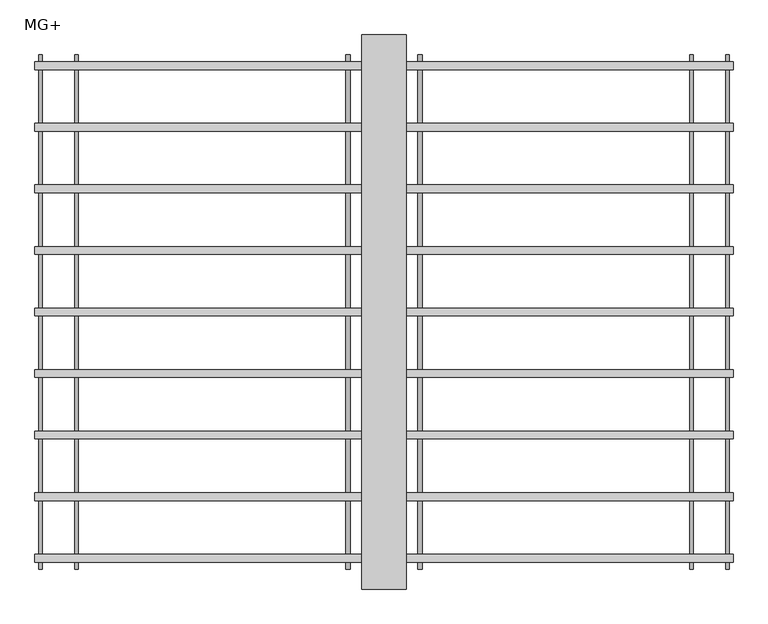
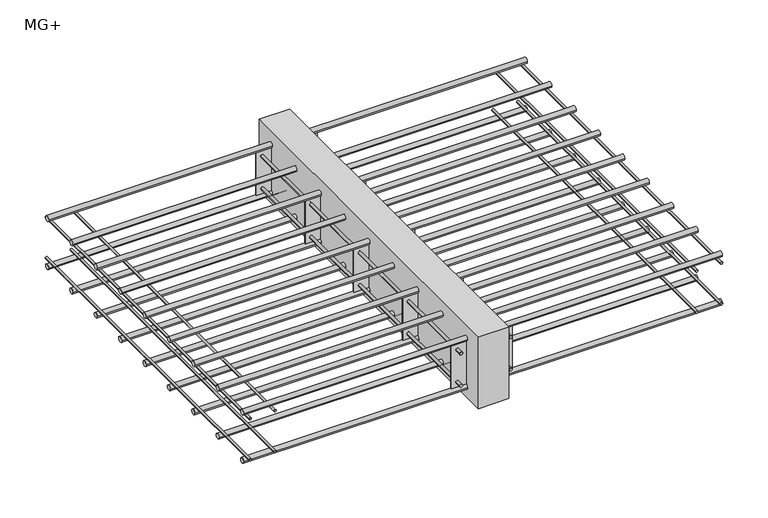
"""IFC4 building model written with IfcOpenShell, lengths in millimetres: fastener geometry, ACINOXplus_Typenreihe_M : MG+."""

from ifc_helpers import new_model, si_unit, point, frame, frame_2d, origin, place, context, project, spatial, polyline, circle_curve, trimmed, segment, composite_curve, outline, extrude, source, transform, mapped, element, save


def mg_54fea27c(model_context):
    return source(origin(), model_context, "Body", "SweptSolid", [
        extrude(outline(polyline([(40.0, 500.0), (40.0, -500.0), (-40.0, -500.0), (-40.0, 500.0), (40.0, 500.0)])), frame((0.0, 0.0, -200.0), z_axis=(0.0, 0.0, 1.0), x_axis=(1.0, 0.0, 0.0)), (0.0, 0.0, 1.0), 200.0),
        extrude(outline(polyline([(80.0, -220.7222222), (80.0, -223.7222222), (-80.0, -223.7222222), (-80.0, -220.7222222), (80.0, -220.7222222)])), frame((0.0, 0.0, -164.0), z_axis=(0.0, 0.0, 1.0), x_axis=(1.0, 0.0, 0.0)), (0.0, 0.0, 1.0), 120.0),
        extrude(outline(polyline([(80.0, 1.5), (80.0, -1.5), (-80.0, -1.5), (-80.0, 1.5), (80.0, 1.5)])), frame((0.0, 0.0, -164.0), z_axis=(0.0, 0.0, 1.0), x_axis=(1.0, 0.0, 0.0)), (0.0, 0.0, 1.0), 120.0),
        extrude(outline(polyline([(80.0, 223.7222222), (80.0, 220.7222222), (-80.0, 220.7222222), (-80.0, 223.7222222), (80.0, 223.7222222)])), frame((0.0, 0.0, -164.0), z_axis=(0.0, 0.0, 1.0), x_axis=(1.0, 0.0, 0.0)), (0.0, 0.0, 1.0), 120.0),
        extrude(outline(polyline([(80.0, -442.9444444), (80.0, -445.9444444), (-80.0, -445.9444444), (-80.0, -442.9444444), (80.0, -442.9444444)])), frame((0.0, 0.0, -164.0), z_axis=(0.0, 0.0, 1.0), x_axis=(1.0, 0.0, 0.0)), (0.0, 0.0, 1.0), 120.0),
        extrude(outline(polyline([(80.0, 445.9444444), (80.0, 442.9444444), (-80.0, 442.9444444), (-80.0, 445.9444444), (80.0, 445.9444444)])), frame((0.0, 0.0, -164.0), z_axis=(0.0, 0.0, 1.0), x_axis=(1.0, 0.0, 0.0)), (0.0, 0.0, 1.0), 120.0),
        extrude(outline(composite_curve([segment(trimmed(circle_curve(frame_2d((-149.0, -65.0)), 4.0), [point((-149.0, -61.0))], [point((-149.0, -69.0))], False, "CARTESIAN"), True, "CONTINUOUS"), segment(trimmed(circle_curve(frame_2d((-149.0, -65.0)), 4.0), [point((-149.0, -69.0))], [point((-149.0, -61.0))], False, "CARTESIAN"), True, "CONTINUOUS")], self_intersect=False)), frame((0.0, -464.4444444, 0.0), z_axis=(0.0, 1.0, 0.0), x_axis=(0.0, 0.0, 1.0)), (0.0, 0.0, 1.0), 18.5),
        extrude(outline(composite_curve([segment(trimmed(circle_curve(frame_2d((-149.0, -65.0)), 4.0), [point((-149.0, -69.0))], [point((-149.0, -61.0))], False, "CARTESIAN"), True, "CONTINUOUS"), segment(trimmed(circle_curve(frame_2d((-149.0, -65.0)), 4.0), [point((-149.0, -61.0))], [point((-149.0, -69.0))], False, "CARTESIAN"), True, "CONTINUOUS")], self_intersect=False)), frame((0.0, -442.9444444, 0.0), z_axis=(0.0, 1.0, 0.0), x_axis=(0.0, 0.0, 1.0)), (0.0, 0.0, 1.0), 663.6666667),
        extrude(outline(composite_curve([segment(trimmed(circle_curve(frame_2d((-149.0, -65.0)), 4.0), [point((-149.0, -69.0))], [point((-149.0, -61.0))], False, "CARTESIAN"), True, "CONTINUOUS"), segment(trimmed(circle_curve(frame_2d((-149.0, -65.0)), 4.0), [point((-149.0, -61.0))], [point((-149.0, -69.0))], False, "CARTESIAN"), True, "CONTINUOUS")], self_intersect=False)), frame((0.0, 445.9444444, 0.0), z_axis=(0.0, 1.0, 0.0), x_axis=(0.0, 0.0, 1.0)), (0.0, 0.0, 1.0), 18.5),
        extrude(outline(composite_curve([segment(trimmed(circle_curve(frame_2d((-149.0, -65.0)), 4.0), [point((-149.0, -69.0))], [point((-149.0, -61.0))], False, "CARTESIAN"), True, "CONTINUOUS"), segment(trimmed(circle_curve(frame_2d((-149.0, -65.0)), 4.0), [point((-149.0, -61.0))], [point((-149.0, -69.0))], False, "CARTESIAN"), True, "CONTINUOUS")], self_intersect=False)), frame((0.0, 223.7222222, 0.0), z_axis=(0.0, 1.0, 0.0), x_axis=(0.0, 0.0, 1.0)), (0.0, 0.0, 1.0), 219.2222222),
        extrude(outline(composite_curve([segment(trimmed(circle_curve(frame_2d((-149.0, 65.0)), 4.0), [point((-149.0, 69.0))], [point((-149.0, 61.0))], False, "CARTESIAN"), True, "CONTINUOUS"), segment(trimmed(circle_curve(frame_2d((-149.0, 65.0)), 4.0), [point((-149.0, 61.0))], [point((-149.0, 69.0))], False, "CARTESIAN"), True, "CONTINUOUS")], self_intersect=False)), frame((0.0, -464.4444444, 0.0), z_axis=(0.0, 1.0, 0.0), x_axis=(0.0, 0.0, 1.0)), (0.0, 0.0, 1.0), 18.5),
        extrude(outline(composite_curve([segment(trimmed(circle_curve(frame_2d((-149.0, 65.0)), 4.0), [point((-149.0, 61.0))], [point((-149.0, 69.0))], False, "CARTESIAN"), True, "CONTINUOUS"), segment(trimmed(circle_curve(frame_2d((-149.0, 65.0)), 4.0), [point((-149.0, 69.0))], [point((-149.0, 61.0))], False, "CARTESIAN"), True, "CONTINUOUS")], self_intersect=False)), frame((0.0, -442.9444444, 0.0), z_axis=(0.0, 1.0, 0.0), x_axis=(0.0, 0.0, 1.0)), (0.0, 0.0, 1.0), 663.6666667),
        extrude(outline(composite_curve([segment(trimmed(circle_curve(frame_2d((-149.0, 65.0)), 4.0), [point((-149.0, 61.0))], [point((-149.0, 69.0))], False, "CARTESIAN"), True, "CONTINUOUS"), segment(trimmed(circle_curve(frame_2d((-149.0, 65.0)), 4.0), [point((-149.0, 69.0))], [point((-149.0, 61.0))], False, "CARTESIAN"), True, "CONTINUOUS")], self_intersect=False)), frame((0.0, 445.9444444, 0.0), z_axis=(0.0, 1.0, 0.0), x_axis=(0.0, 0.0, 1.0)), (0.0, 0.0, 1.0), 18.5),
        extrude(outline(composite_curve([segment(trimmed(circle_curve(frame_2d((-149.0, 65.0)), 4.0), [point((-149.0, 61.0))], [point((-149.0, 69.0))], False, "CARTESIAN"), True, "CONTINUOUS"), segment(trimmed(circle_curve(frame_2d((-149.0, 65.0)), 4.0), [point((-149.0, 69.0))], [point((-149.0, 61.0))], False, "CARTESIAN"), True, "CONTINUOUS")], self_intersect=False)), frame((0.0, 223.7222222, 0.0), z_axis=(0.0, 1.0, 0.0), x_axis=(0.0, 0.0, 1.0)), (0.0, 0.0, 1.0), 219.2222222),
        extrude(outline(composite_curve([segment(trimmed(circle_curve(frame_2d((-59.0, -65.0)), 4.0), [point((-59.0, -61.0))], [point((-59.0, -69.0))], False, "CARTESIAN"), True, "CONTINUOUS"), segment(trimmed(circle_curve(frame_2d((-59.0, -65.0)), 4.0), [point((-59.0, -69.0))], [point((-59.0, -61.0))], False, "CARTESIAN"), True, "CONTINUOUS")], self_intersect=False)), frame((0.0, -464.4444444, 0.0), z_axis=(0.0, 1.0, 0.0), x_axis=(0.0, 0.0, 1.0)), (0.0, 0.0, 1.0), 18.5),
        extrude(outline(composite_curve([segment(trimmed(circle_curve(frame_2d((-59.0, -65.0)), 4.0), [point((-59.0, -69.0))], [point((-59.0, -61.0))], False, "CARTESIAN"), True, "CONTINUOUS"), segment(trimmed(circle_curve(frame_2d((-59.0, -65.0)), 4.0), [point((-59.0, -61.0))], [point((-59.0, -69.0))], False, "CARTESIAN"), True, "CONTINUOUS")], self_intersect=False)), frame((0.0, -442.9444444, 0.0), z_axis=(0.0, 1.0, 0.0), x_axis=(0.0, 0.0, 1.0)), (0.0, 0.0, 1.0), 663.6666667),
        extrude(outline(composite_curve([segment(trimmed(circle_curve(frame_2d((-59.0, -65.0)), 4.0), [point((-59.0, -69.0))], [point((-59.0, -61.0))], False, "CARTESIAN"), True, "CONTINUOUS"), segment(trimmed(circle_curve(frame_2d((-59.0, -65.0)), 4.0), [point((-59.0, -61.0))], [point((-59.0, -69.0))], False, "CARTESIAN"), True, "CONTINUOUS")], self_intersect=False)), frame((0.0, 445.9444444, 0.0), z_axis=(0.0, 1.0, 0.0), x_axis=(0.0, 0.0, 1.0)), (0.0, 0.0, 1.0), 18.5),
        extrude(outline(composite_curve([segment(trimmed(circle_curve(frame_2d((-59.0, -65.0)), 4.0), [point((-59.0, -69.0))], [point((-59.0, -61.0))], False, "CARTESIAN"), True, "CONTINUOUS"), segment(trimmed(circle_curve(frame_2d((-59.0, -65.0)), 4.0), [point((-59.0, -61.0))], [point((-59.0, -69.0))], False, "CARTESIAN"), True, "CONTINUOUS")], self_intersect=False)), frame((0.0, 223.7222222, 0.0), z_axis=(0.0, 1.0, 0.0), x_axis=(0.0, 0.0, 1.0)), (0.0, 0.0, 1.0), 219.2222222),
        extrude(outline(composite_curve([segment(trimmed(circle_curve(frame_2d((-59.0, 65.0)), 4.0), [point((-59.0, 69.0))], [point((-59.0, 61.0))], False, "CARTESIAN"), True, "CONTINUOUS"), segment(trimmed(circle_curve(frame_2d((-59.0, 65.0)), 4.0), [point((-59.0, 61.0))], [point((-59.0, 69.0))], False, "CARTESIAN"), True, "CONTINUOUS")], self_intersect=False)), frame((0.0, -464.4444444, 0.0), z_axis=(0.0, 1.0, 0.0), x_axis=(0.0, 0.0, 1.0)), (0.0, 0.0, 1.0), 18.5),
        extrude(outline(composite_curve([segment(trimmed(circle_curve(frame_2d((-59.0, 65.0)), 4.0), [point((-59.0, 61.0))], [point((-59.0, 69.0))], False, "CARTESIAN"), True, "CONTINUOUS"), segment(trimmed(circle_curve(frame_2d((-59.0, 65.0)), 4.0), [point((-59.0, 69.0))], [point((-59.0, 61.0))], False, "CARTESIAN"), True, "CONTINUOUS")], self_intersect=False)), frame((0.0, -442.9444444, 0.0), z_axis=(0.0, 1.0, 0.0), x_axis=(0.0, 0.0, 1.0)), (0.0, 0.0, 1.0), 663.6666667),
        extrude(outline(composite_curve([segment(trimmed(circle_curve(frame_2d((-59.0, 65.0)), 4.0), [point((-59.0, 61.0))], [point((-59.0, 69.0))], False, "CARTESIAN"), True, "CONTINUOUS"), segment(trimmed(circle_curve(frame_2d((-59.0, 65.0)), 4.0), [point((-59.0, 69.0))], [point((-59.0, 61.0))], False, "CARTESIAN"), True, "CONTINUOUS")], self_intersect=False)), frame((0.0, 445.9444444, 0.0), z_axis=(0.0, 1.0, 0.0), x_axis=(0.0, 0.0, 1.0)), (0.0, 0.0, 1.0), 18.5),
        extrude(outline(composite_curve([segment(trimmed(circle_curve(frame_2d((-59.0, 65.0)), 4.0), [point((-59.0, 61.0))], [point((-59.0, 69.0))], False, "CARTESIAN"), True, "CONTINUOUS"), segment(trimmed(circle_curve(frame_2d((-59.0, 65.0)), 4.0), [point((-59.0, 69.0))], [point((-59.0, 61.0))], False, "CARTESIAN"), True, "CONTINUOUS")], self_intersect=False)), frame((0.0, 223.7222222, 0.0), z_axis=(0.0, 1.0, 0.0), x_axis=(0.0, 0.0, 1.0)), (0.0, 0.0, 1.0), 219.2222222),
        extrude(outline(composite_curve([segment(trimmed(circle_curve(frame_2d((222.2222222, -171.0)), 7.0), [point((215.2222222, -171.0))], [point((229.2222222, -171.0))], False, "CARTESIAN"), True, "CONTINUOUS"), segment(trimmed(circle_curve(frame_2d((222.2222222, -171.0)), 7.0), [point((229.2222222, -171.0))], [point((215.2222222, -171.0))], False, "CARTESIAN"), True, "CONTINUOUS")], self_intersect=False)), frame((-630.0, 0.0, 0.0), z_axis=(1.0, 0.0, 0.0), x_axis=(0.0, 1.0, 0.0)), (0.0, 0.0, 1.0), 1260.0),
        extrude(outline(composite_curve([segment(trimmed(circle_curve(frame_2d((111.1111111, -171.0)), 7.0), [point((104.1111111, -171.0))], [point((118.1111111, -171.0))], False, "CARTESIAN"), True, "CONTINUOUS"), segment(trimmed(circle_curve(frame_2d((111.1111111, -171.0)), 7.0), [point((118.1111111, -171.0))], [point((104.1111111, -171.0))], False, "CARTESIAN"), True, "CONTINUOUS")], self_intersect=False)), frame((-630.0, 0.0, 0.0), z_axis=(1.0, 0.0, 0.0), x_axis=(0.0, 1.0, 0.0)), (0.0, 0.0, 1.0), 1260.0),
        extrude(outline(composite_curve([segment(trimmed(circle_curve(frame_2d((0.0, -171.0)), 7.0), [point((-7.0, -171.0))], [point((7.0, -171.0))], False, "CARTESIAN"), True, "CONTINUOUS"), segment(trimmed(circle_curve(frame_2d((0.0, -171.0)), 7.0), [point((7.0, -171.0))], [point((-7.0, -171.0))], False, "CARTESIAN"), True, "CONTINUOUS")], self_intersect=False)), frame((-630.0, 0.0, 0.0), z_axis=(1.0, 0.0, 0.0), x_axis=(0.0, 1.0, 0.0)), (0.0, 0.0, 1.0), 1260.0),
        extrude(outline(composite_curve([segment(trimmed(circle_curve(frame_2d((-111.1111111, -171.0)), 7.0), [point((-118.1111111, -171.0))], [point((-104.1111111, -171.0))], False, "CARTESIAN"), True, "CONTINUOUS"), segment(trimmed(circle_curve(frame_2d((-111.1111111, -171.0)), 7.0), [point((-104.1111111, -171.0))], [point((-118.1111111, -171.0))], False, "CARTESIAN"), True, "CONTINUOUS")], self_intersect=False)), frame((-630.0, 0.0, 0.0), z_axis=(1.0, 0.0, 0.0), x_axis=(0.0, 1.0, 0.0)), (0.0, 0.0, 1.0), 1260.0),
        extrude(outline(composite_curve([segment(trimmed(circle_curve(frame_2d((-222.2222222, -171.0)), 7.0), [point((-229.2222222, -171.0))], [point((-215.2222222, -171.0))], False, "CARTESIAN"), True, "CONTINUOUS"), segment(trimmed(circle_curve(frame_2d((-222.2222222, -171.0)), 7.0), [point((-215.2222222, -171.0))], [point((-229.2222222, -171.0))], False, "CARTESIAN"), True, "CONTINUOUS")], self_intersect=False)), frame((-630.0, 0.0, 0.0), z_axis=(1.0, 0.0, 0.0), x_axis=(0.0, 1.0, 0.0)), (0.0, 0.0, 1.0), 1260.0),
        extrude(outline(composite_curve([segment(trimmed(circle_curve(frame_2d((333.3333333, -171.0)), 7.0), [point((326.3333333, -171.0))], [point((340.3333333, -171.0))], False, "CARTESIAN"), True, "CONTINUOUS"), segment(trimmed(circle_curve(frame_2d((333.3333333, -171.0)), 7.0), [point((340.3333333, -171.0))], [point((326.3333333, -171.0))], False, "CARTESIAN"), True, "CONTINUOUS")], self_intersect=False)), frame((-630.0, 0.0, 0.0), z_axis=(1.0, 0.0, 0.0), x_axis=(0.0, 1.0, 0.0)), (0.0, 0.0, 1.0), 1260.0),
        extrude(outline(composite_curve([segment(trimmed(circle_curve(frame_2d((444.4444444, -171.0)), 7.0), [point((437.4444444, -171.0))], [point((451.4444444, -171.0))], False, "CARTESIAN"), True, "CONTINUOUS"), segment(trimmed(circle_curve(frame_2d((444.4444444, -171.0)), 7.0), [point((451.4444444, -171.0))], [point((437.4444444, -171.0))], False, "CARTESIAN"), True, "CONTINUOUS")], self_intersect=False)), frame((-630.0, 0.0, 0.0), z_axis=(1.0, 0.0, 0.0), x_axis=(0.0, 1.0, 0.0)), (0.0, 0.0, 1.0), 1260.0),
        extrude(outline(composite_curve([segment(trimmed(circle_curve(frame_2d((-333.3333333, -171.0)), 7.0), [point((-340.3333333, -171.0))], [point((-326.3333333, -171.0))], False, "CARTESIAN"), True, "CONTINUOUS"), segment(trimmed(circle_curve(frame_2d((-333.3333333, -171.0)), 7.0), [point((-326.3333333, -171.0))], [point((-340.3333333, -171.0))], False, "CARTESIAN"), True, "CONTINUOUS")], self_intersect=False)), frame((-630.0, 0.0, 0.0), z_axis=(1.0, 0.0, 0.0), x_axis=(0.0, 1.0, 0.0)), (0.0, 0.0, 1.0), 1260.0),
        extrude(outline(composite_curve([segment(trimmed(circle_curve(frame_2d((-444.4444444, -171.0)), 7.0), [point((-451.4444444, -171.0))], [point((-437.4444444, -171.0))], False, "CARTESIAN"), True, "CONTINUOUS"), segment(trimmed(circle_curve(frame_2d((-444.4444444, -171.0)), 7.0), [point((-437.4444444, -171.0))], [point((-451.4444444, -171.0))], False, "CARTESIAN"), True, "CONTINUOUS")], self_intersect=False)), frame((-630.0, 0.0, 0.0), z_axis=(1.0, 0.0, 0.0), x_axis=(0.0, 1.0, 0.0)), (0.0, 0.0, 1.0), 1260.0),
        extrude(outline(composite_curve([segment(trimmed(circle_curve(frame_2d((222.2222222, -37.0)), 7.0), [point((215.2222222, -37.0))], [point((229.2222222, -37.0))], False, "CARTESIAN"), True, "CONTINUOUS"), segment(trimmed(circle_curve(frame_2d((222.2222222, -37.0)), 7.0), [point((229.2222222, -37.0))], [point((215.2222222, -37.0))], False, "CARTESIAN"), True, "CONTINUOUS")], self_intersect=False)), frame((-630.0, 0.0, 0.0), z_axis=(1.0, 0.0, 0.0), x_axis=(0.0, 1.0, 0.0)), (0.0, 0.0, 1.0), 1260.0),
        extrude(outline(composite_curve([segment(trimmed(circle_curve(frame_2d((111.1111111, -37.0)), 7.0), [point((104.1111111, -37.0))], [point((118.1111111, -37.0))], False, "CARTESIAN"), True, "CONTINUOUS"), segment(trimmed(circle_curve(frame_2d((111.1111111, -37.0)), 7.0), [point((118.1111111, -37.0))], [point((104.1111111, -37.0))], False, "CARTESIAN"), True, "CONTINUOUS")], self_intersect=False)), frame((-630.0, 0.0, 0.0), z_axis=(1.0, 0.0, 0.0), x_axis=(0.0, 1.0, 0.0)), (0.0, 0.0, 1.0), 1260.0),
        extrude(outline(composite_curve([segment(trimmed(circle_curve(frame_2d((0.0, -37.0)), 7.0), [point((-7.0, -37.0))], [point((7.0, -37.0))], False, "CARTESIAN"), True, "CONTINUOUS"), segment(trimmed(circle_curve(frame_2d((0.0, -37.0)), 7.0), [point((7.0, -37.0))], [point((-7.0, -37.0))], False, "CARTESIAN"), True, "CONTINUOUS")], self_intersect=False)), frame((-630.0, 0.0, 0.0), z_axis=(1.0, 0.0, 0.0), x_axis=(0.0, 1.0, 0.0)), (0.0, 0.0, 1.0), 1260.0),
        extrude(outline(composite_curve([segment(trimmed(circle_curve(frame_2d((-111.1111111, -37.0)), 7.0), [point((-118.1111111, -37.0))], [point((-104.1111111, -37.0))], False, "CARTESIAN"), True, "CONTINUOUS"), segment(trimmed(circle_curve(frame_2d((-111.1111111, -37.0)), 7.0), [point((-104.1111111, -37.0))], [point((-118.1111111, -37.0))], False, "CARTESIAN"), True, "CONTINUOUS")], self_intersect=False)), frame((-630.0, 0.0, 0.0), z_axis=(1.0, 0.0, 0.0), x_axis=(0.0, 1.0, 0.0)), (0.0, 0.0, 1.0), 1260.0),
        extrude(outline(composite_curve([segment(trimmed(circle_curve(frame_2d((-222.2222222, -37.0)), 7.0), [point((-229.2222222, -37.0))], [point((-215.2222222, -37.0))], False, "CARTESIAN"), True, "CONTINUOUS"), segment(trimmed(circle_curve(frame_2d((-222.2222222, -37.0)), 7.0), [point((-215.2222222, -37.0))], [point((-229.2222222, -37.0))], False, "CARTESIAN"), True, "CONTINUOUS")], self_intersect=False)), frame((-630.0, 0.0, 0.0), z_axis=(1.0, 0.0, 0.0), x_axis=(0.0, 1.0, 0.0)), (0.0, 0.0, 1.0), 1260.0),
        extrude(outline(composite_curve([segment(trimmed(circle_curve(frame_2d((333.3333333, -37.0)), 7.0), [point((326.3333333, -37.0))], [point((340.3333333, -37.0))], False, "CARTESIAN"), True, "CONTINUOUS"), segment(trimmed(circle_curve(frame_2d((333.3333333, -37.0)), 7.0), [point((340.3333333, -37.0))], [point((326.3333333, -37.0))], False, "CARTESIAN"), True, "CONTINUOUS")], self_intersect=False)), frame((-630.0, 0.0, 0.0), z_axis=(1.0, 0.0, 0.0), x_axis=(0.0, 1.0, 0.0)), (0.0, 0.0, 1.0), 1260.0),
        extrude(outline(composite_curve([segment(trimmed(circle_curve(frame_2d((444.4444444, -37.0)), 7.0), [point((437.4444444, -37.0))], [point((451.4444444, -37.0))], False, "CARTESIAN"), True, "CONTINUOUS"), segment(trimmed(circle_curve(frame_2d((444.4444444, -37.0)), 7.0), [point((451.4444444, -37.0))], [point((437.4444444, -37.0))], False, "CARTESIAN"), True, "CONTINUOUS")], self_intersect=False)), frame((-630.0, 0.0, 0.0), z_axis=(1.0, 0.0, 0.0), x_axis=(0.0, 1.0, 0.0)), (0.0, 0.0, 1.0), 1260.0),
        extrude(outline(composite_curve([segment(trimmed(circle_curve(frame_2d((-333.3333333, -37.0)), 7.0), [point((-340.3333333, -37.0))], [point((-326.3333333, -37.0))], False, "CARTESIAN"), True, "CONTINUOUS"), segment(trimmed(circle_curve(frame_2d((-333.3333333, -37.0)), 7.0), [point((-326.3333333, -37.0))], [point((-340.3333333, -37.0))], False, "CARTESIAN"), True, "CONTINUOUS")], self_intersect=False)), frame((-630.0, 0.0, 0.0), z_axis=(1.0, 0.0, 0.0), x_axis=(0.0, 1.0, 0.0)), (0.0, 0.0, 1.0), 1260.0),
        extrude(outline(composite_curve([segment(trimmed(circle_curve(frame_2d((-444.4444444, -37.0)), 7.0), [point((-451.4444444, -37.0))], [point((-437.4444444, -37.0))], False, "CARTESIAN"), True, "CONTINUOUS"), segment(trimmed(circle_curve(frame_2d((-444.4444444, -37.0)), 7.0), [point((-437.4444444, -37.0))], [point((-451.4444444, -37.0))], False, "CARTESIAN"), True, "CONTINUOUS")], self_intersect=False)), frame((-630.0, 0.0, 0.0), z_axis=(1.0, 0.0, 0.0), x_axis=(0.0, 1.0, 0.0)), (0.0, 0.0, 1.0), 1260.0),
        extrude(outline(composite_curve([segment(trimmed(circle_curve(frame_2d((-161.0, -620.0)), 3.0), [point((-161.0, -617.0))], [point((-161.0, -623.0))], False, "CARTESIAN"), True, "CONTINUOUS"), segment(trimmed(circle_curve(frame_2d((-161.0, -620.0)), 3.0), [point((-161.0, -623.0))], [point((-161.0, -617.0))], False, "CARTESIAN"), True, "CONTINUOUS")], self_intersect=False)), frame((0.0, -464.4444444, 0.0), z_axis=(0.0, 1.0, 0.0), x_axis=(0.0, 0.0, 1.0)), (0.0, 0.0, 1.0), 928.8888889),
        extrude(outline(composite_curve([segment(trimmed(circle_curve(frame_2d((-161.0, -555.0)), 3.0), [point((-161.0, -552.0))], [point((-161.0, -558.0))], False, "CARTESIAN"), True, "CONTINUOUS"), segment(trimmed(circle_curve(frame_2d((-161.0, -555.0)), 3.0), [point((-161.0, -558.0))], [point((-161.0, -552.0))], False, "CARTESIAN"), True, "CONTINUOUS")], self_intersect=False)), frame((0.0, -464.4444444, 0.0), z_axis=(0.0, 1.0, 0.0), x_axis=(0.0, 0.0, 1.0)), (0.0, 0.0, 1.0), 928.8888889),
        extrude(outline(composite_curve([segment(trimmed(circle_curve(frame_2d((-161.0, 555.0)), 3.0), [point((-161.0, 558.0))], [point((-161.0, 552.0))], False, "CARTESIAN"), True, "CONTINUOUS"), segment(trimmed(circle_curve(frame_2d((-161.0, 555.0)), 3.0), [point((-161.0, 552.0))], [point((-161.0, 558.0))], False, "CARTESIAN"), True, "CONTINUOUS")], self_intersect=False)), frame((0.0, -464.4444444, 0.0), z_axis=(0.0, 1.0, 0.0), x_axis=(0.0, 0.0, 1.0)), (0.0, 0.0, 1.0), 928.8888889),
        extrude(outline(composite_curve([segment(trimmed(circle_curve(frame_2d((-161.0, 620.0)), 3.0), [point((-161.0, 623.0))], [point((-161.0, 617.0))], False, "CARTESIAN"), True, "CONTINUOUS"), segment(trimmed(circle_curve(frame_2d((-161.0, 620.0)), 3.0), [point((-161.0, 617.0))], [point((-161.0, 623.0))], False, "CARTESIAN"), True, "CONTINUOUS")], self_intersect=False)), frame((0.0, -464.4444444, 0.0), z_axis=(0.0, 1.0, 0.0), x_axis=(0.0, 0.0, 1.0)), (0.0, 0.0, 1.0), 928.8888889),
        extrude(outline(composite_curve([segment(trimmed(circle_curve(frame_2d((-47.0, 555.0)), 3.0), [point((-47.0, 558.0))], [point((-47.0, 552.0))], False, "CARTESIAN"), True, "CONTINUOUS"), segment(trimmed(circle_curve(frame_2d((-47.0, 555.0)), 3.0), [point((-47.0, 552.0))], [point((-47.0, 558.0))], False, "CARTESIAN"), True, "CONTINUOUS")], self_intersect=False)), frame((0.0, -464.4444444, 0.0), z_axis=(0.0, 1.0, 0.0), x_axis=(0.0, 0.0, 1.0)), (0.0, 0.0, 1.0), 928.8888889),
        extrude(outline(composite_curve([segment(trimmed(circle_curve(frame_2d((-47.0, 620.0)), 3.0), [point((-47.0, 623.0))], [point((-47.0, 617.0))], False, "CARTESIAN"), True, "CONTINUOUS"), segment(trimmed(circle_curve(frame_2d((-47.0, 620.0)), 3.0), [point((-47.0, 617.0))], [point((-47.0, 623.0))], False, "CARTESIAN"), True, "CONTINUOUS")], self_intersect=False)), frame((0.0, -464.4444444, 0.0), z_axis=(0.0, 1.0, 0.0), x_axis=(0.0, 0.0, 1.0)), (0.0, 0.0, 1.0), 928.8888889),
        extrude(outline(composite_curve([segment(trimmed(circle_curve(frame_2d((-47.0, -620.0)), 3.0), [point((-47.0, -617.0))], [point((-47.0, -623.0))], False, "CARTESIAN"), True, "CONTINUOUS"), segment(trimmed(circle_curve(frame_2d((-47.0, -620.0)), 3.0), [point((-47.0, -623.0))], [point((-47.0, -617.0))], False, "CARTESIAN"), True, "CONTINUOUS")], self_intersect=False)), frame((0.0, -464.4444444, 0.0), z_axis=(0.0, 1.0, 0.0), x_axis=(0.0, 0.0, 1.0)), (0.0, 0.0, 1.0), 928.8888889),
        extrude(outline(composite_curve([segment(trimmed(circle_curve(frame_2d((-47.0, -555.0)), 3.0), [point((-47.0, -552.0))], [point((-47.0, -558.0))], False, "CARTESIAN"), True, "CONTINUOUS"), segment(trimmed(circle_curve(frame_2d((-47.0, -555.0)), 3.0), [point((-47.0, -558.0))], [point((-47.0, -552.0))], False, "CARTESIAN"), True, "CONTINUOUS")], self_intersect=False)), frame((0.0, -464.4444444, 0.0), z_axis=(0.0, 1.0, 0.0), x_axis=(0.0, 0.0, 1.0)), (0.0, 0.0, 1.0), 928.8888889),
    ])


if __name__ == "__main__":
    model = new_model("IFC4")
    model_context = context("Model", 3, world=origin())
    ifc_project = project(units=[si_unit("LENGTHUNIT", "METRE", prefix="MILLI")], contexts=[model_context])
    site = spatial("IfcSite", under=ifc_project)
    building = spatial("IfcBuilding", under=site)
    placement = place(None, origin())
    mg_shape = mg_54fea27c(model_context)
    element("IfcFastener", 1, ObjectType="ACINOXplus_Typenreihe_M : MG+", at=placement, inside=building, context=model_context, shape_type="MappedRepresentation", body=[
        mapped(mg_shape, transform((0.0, 0.0, 0.0), x_axis=(1.0, 0.0, 0.0), y_axis=(0.0, 1.0, 0.0), z_axis=(0.0, 0.0, 1.0))),
    ])
    save(model, "model.ifc")
